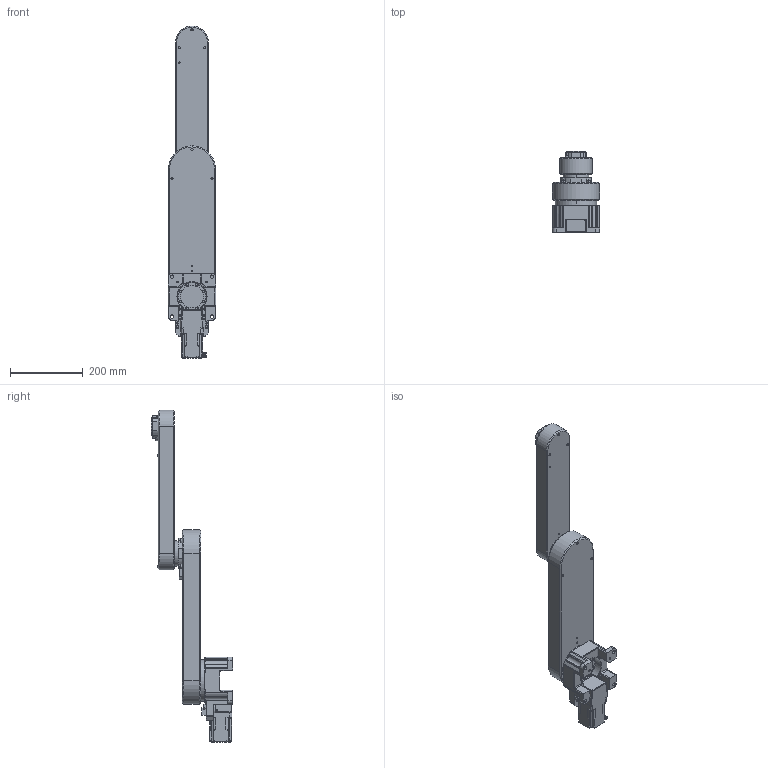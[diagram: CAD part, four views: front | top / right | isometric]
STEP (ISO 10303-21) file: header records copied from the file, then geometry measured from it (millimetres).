
FILE_DESCRIPTION (( 'STEP AP203' ), '1' );
FILE_NAME ('OVR3070K3-H.STEP', '2025-04-17T03:18:22', ( '' ), ( '' ), 'SwSTEP 2.0', 'SolidWorks 2023', '' );
FILE_SCHEMA (( 'CONFIG_CONTROL_DESIGN' ));
Length unit declared in the file: millimetre
Products named in the file (5): OVR3070K3-H_Movingpart3-1; OVR3070K3-H_Movingpart2-1; OVR3070K3-H_Movingpart1-1; OVR3070K3-H_Base-1; OVR3070K3-H
Assembly tree (4 placements, depth 2):
  OVR3070K3-H
    OVR3070K3-H_Base-1
    OVR3070K3-H_Movingpart1-1
    OVR3070K3-H_Movingpart2-1
    OVR3070K3-H_Movingpart3-1
Bounding box: 130 x 223 x 914 mm (x, y, z)
Volume: 5918480.8 mm3; surface area: 438423.7 mm2
Topology: 4 solids, 6 shells, 859 faces, 2161 edges, 1386 vertices
Faces by surface type: cylinder 417, plane 366, torus 36, cone 22, bspline 12, sphere 6
Entity records: 27324 total; most frequent: CARTESIAN_POINT 5453, DIRECTION 4759, ORIENTED_EDGE 4298, EDGE_CURVE 2149, AXIS2_PLACEMENT_3D 1796, VERTEX_POINT 1386, VECTOR 1167, LINE 1167
